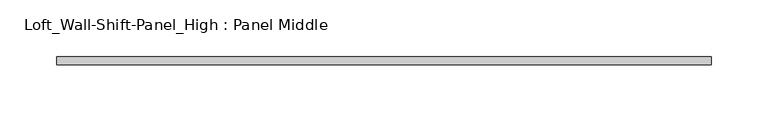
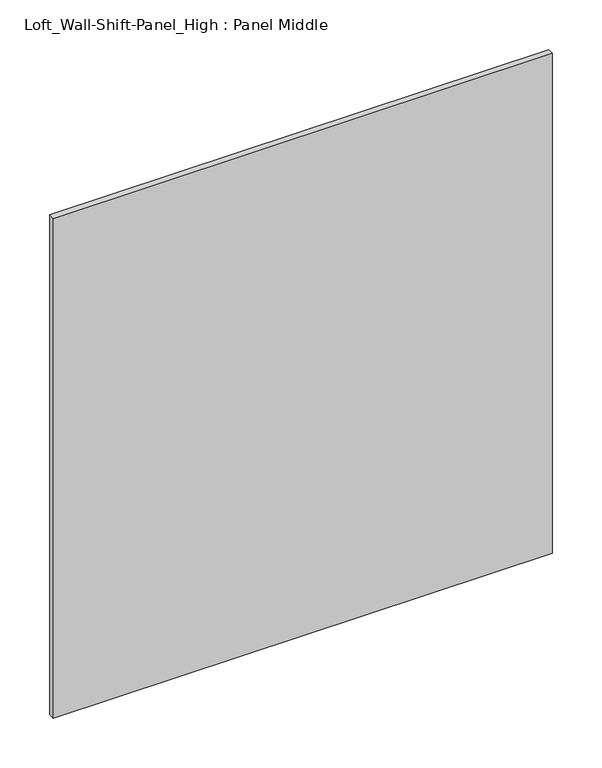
"""IFC4 building model written with IfcOpenShell, lengths in millimetres: furniture geometry, Loft_Wall-Shift-Panel_High : Panel Middle."""

from ifc_helpers import new_model, si_unit, frame, origin, place, context, project, spatial, polyline, outline, extrude, source, transform, mapped, element, save


def loft_wall_shift_panel_high_panel_middle_ab29b295(model_context):
    return source(origin(), model_context, "Body", "SweptSolid", [
        extrude(outline(polyline([(288.925, -3.571875), (-288.925, -3.571875), (-288.925, 3.571875), (288.925, 3.571875), (288.925, -3.571875)])), frame((0.0, 0.0, 681.83125), z_axis=(0.0, 0.0, 1.0), x_axis=(1.0, 0.0, 0.0)), (0.0, 0.0, 1.0), 611.98125),
    ])


if __name__ == "__main__":
    model = new_model("IFC4")
    model_context = context("Model", 3, world=origin())
    ifc_project = project(units=[si_unit("LENGTHUNIT", "METRE", prefix="MILLI")], contexts=[model_context])
    site = spatial("IfcSite", under=ifc_project)
    building = spatial("IfcBuilding", under=site)
    placement = place(None, origin())
    loft_wall_shift_panel_high_panel_middle_shape = loft_wall_shift_panel_high_panel_middle_ab29b295(model_context)
    element("IfcFurniture", 1, ObjectType="Loft_Wall-Shift-Panel_High : Panel Middle", at=placement, inside=building, context=model_context, shape_type="MappedRepresentation", body=[
        mapped(loft_wall_shift_panel_high_panel_middle_shape, transform((0.0, 0.0, 0.0), x_axis=(1.0, 0.0, 0.0), y_axis=(0.0, 1.0, 0.0), z_axis=(0.0, 0.0, 1.0))),
    ])
    save(model, "model.ifc")
